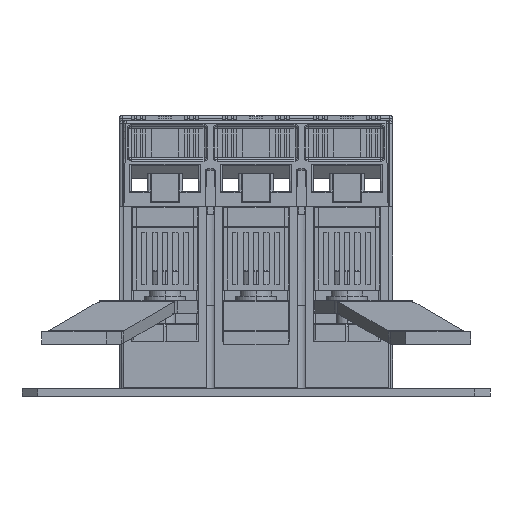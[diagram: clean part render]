
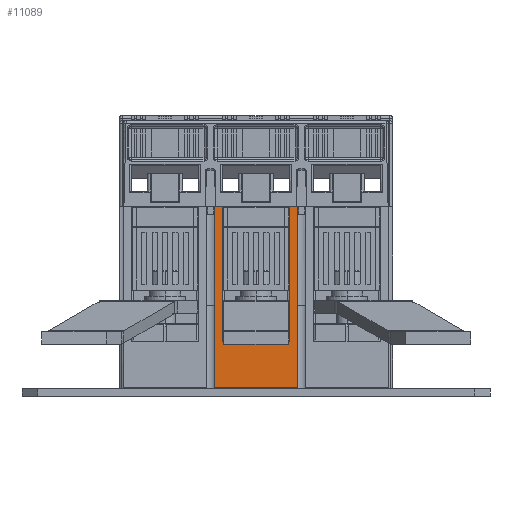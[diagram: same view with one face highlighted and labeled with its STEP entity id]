
A CAD part, front view. The second image highlights one B-rep face of the part: STEP entity #11089.
In plain terms, the highlighted planar face has unit normal (0, -1, 0).
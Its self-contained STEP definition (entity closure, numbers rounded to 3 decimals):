
#1012 = EDGE_LOOP ( 'NONE', ( #101289, #101293, #101296, #101298, #101300, #101303, #101305, #101307, #101311, #101314 ) ) ;
#8834 = CIRCLE ( 'NONE', #8842, 1. ) ;
#8842 = AXIS2_PLACEMENT_3D ( 'NONE', #195372, #195374, #195376 ) ;
#11089 = ADVANCED_FACE ( 'NONE', ( #148727 ), #148679, .F. ) ;
#15702 = VERTEX_POINT ( 'NONE', #128221 ) ;
#23107 = CARTESIAN_POINT ( 'NONE',  ( -80.13, -161.075, -51.999 ) ) ;
#29296 = VERTEX_POINT ( 'NONE', #138667 ) ;
#29313 = VERTEX_POINT ( 'NONE', #138723 ) ;
#30691 = VERTEX_POINT ( 'NONE', #23107 ) ;
#49122 = EDGE_CURVE ( 'NONE', #29313, #61950, #8834, .T. ) ;
#61950 = VERTEX_POINT ( 'NONE', #195555 ) ;
#62391 = VERTEX_POINT ( 'NONE', #195667 ) ;
#62829 = VERTEX_POINT ( 'NONE', #195803 ) ;
#63194 = VERTEX_POINT ( 'NONE', #195925 ) ;
#65420 = VERTEX_POINT ( 'NONE', #178231 ) ;
#66302 = VERTEX_POINT ( 'NONE', #178567 ) ;
#101289 = ORIENTED_EDGE ( 'NONE', *, *, #181345, .F. ) ;
#101293 = ORIENTED_EDGE ( 'NONE', *, *, #181373, .F. ) ;
#101296 = ORIENTED_EDGE ( 'NONE', *, *, #181382, .T. ) ;
#101298 = ORIENTED_EDGE ( 'NONE', *, *, #49122, .F. ) ;
#101300 = ORIENTED_EDGE ( 'NONE', *, *, #233256, .F. ) ;
#101303 = ORIENTED_EDGE ( 'NONE', *, *, #233173, .F. ) ;
#101305 = ORIENTED_EDGE ( 'NONE', *, *, #181385, .F. ) ;
#101307 = ORIENTED_EDGE ( 'NONE', *, *, #181390, .T. ) ;
#101311 = ORIENTED_EDGE ( 'NONE', *, *, #181394, .F. ) ;
#101314 = ORIENTED_EDGE ( 'NONE', *, *, #181398, .F. ) ;
#128221 = CARTESIAN_POINT ( 'NONE',  ( -48.13, -161.075, 17.501 ) ) ;
#138667 = CARTESIAN_POINT ( 'NONE',  ( -76.13, -161.075, -34.499 ) ) ;
#138723 = CARTESIAN_POINT ( 'NONE',  ( -52.13, -161.075, -34.499 ) ) ;
#148679 = PLANE ( 'NONE',  #174936 ) ;
#148727 = FACE_OUTER_BOUND ( 'NONE', #1012, .T. ) ;
#148761 = CARTESIAN_POINT ( 'NONE',  ( -51.13, -161.075, 17.501 ) ) ;
#148764 = DIRECTION ( 'NONE',  ( 0., 1., 0. ) ) ;
#148766 = DIRECTION ( 'NONE',  ( -1., 0., 0. ) ) ;
#173955 = CIRCLE ( 'NONE', #173963, 1. ) ;
#173963 = AXIS2_PLACEMENT_3D ( 'NONE', #188332, #188335, #188339 ) ;
#174098 = VECTOR ( 'NONE', #189580, 1000. ) ;
#174936 = AXIS2_PLACEMENT_3D ( 'NONE', #148761, #148764, #148766 ) ;
#178231 = CARTESIAN_POINT ( 'NONE',  ( -48.13, -161.075, -51.999 ) ) ;
#178567 = CARTESIAN_POINT ( 'NONE',  ( -51.13, -161.075, 17.501 ) ) ;
#181345 = EDGE_CURVE ( 'NONE', #15702, #65420, #206726, .T. ) ;
#181373 = EDGE_CURVE ( 'NONE', #66302, #15702, #206779, .T. ) ;
#181382 = EDGE_CURVE ( 'NONE', #66302, #61950, #206737, .T. ) ;
#181385 = EDGE_CURVE ( 'NONE', #62391, #62829, #206794, .T. ) ;
#181390 = EDGE_CURVE ( 'NONE', #62391, #63194, #206817, .T. ) ;
#181394 = EDGE_CURVE ( 'NONE', #30691, #63194, #206824, .T. ) ;
#181398 = EDGE_CURVE ( 'NONE', #65420, #30691, #206832, .T. ) ;
#188332 = CARTESIAN_POINT ( 'NONE',  ( -76.13, -161.075, -33.499 ) ) ;
#188335 = DIRECTION ( 'NONE',  ( 0., -1., 0. ) ) ;
#188339 = DIRECTION ( 'NONE',  ( -1., 0., 0. ) ) ;
#189539 = LINE ( 'NONE', #189543, #174098 ) ;
#189543 = CARTESIAN_POINT ( 'NONE',  ( -51.13, -161.075, -34.499 ) ) ;
#189580 = DIRECTION ( 'NONE',  ( 1., 0., 0. ) ) ;
#195372 = CARTESIAN_POINT ( 'NONE',  ( -52.13, -161.075, -33.499 ) ) ;
#195374 = DIRECTION ( 'NONE',  ( 0., -1., 0. ) ) ;
#195376 = DIRECTION ( 'NONE',  ( -1., 0., 0. ) ) ;
#195555 = CARTESIAN_POINT ( 'NONE',  ( -51.13, -161.075, -33.499 ) ) ;
#195667 = CARTESIAN_POINT ( 'NONE',  ( -77.13, -161.075, 17.501 ) ) ;
#195803 = CARTESIAN_POINT ( 'NONE',  ( -77.13, -161.075, -33.499 ) ) ;
#195925 = CARTESIAN_POINT ( 'NONE',  ( -80.13, -161.075, 17.501 ) ) ;
#203610 = VECTOR ( 'NONE', #206731, 1000. ) ;
#203612 = VECTOR ( 'NONE', #206814, 1000. ) ;
#203622 = VECTOR ( 'NONE', #206786, 1000. ) ;
#203625 = VECTOR ( 'NONE', #206807, 1000. ) ;
#203629 = VECTOR ( 'NONE', #206822, 1000. ) ;
#203631 = VECTOR ( 'NONE', #206830, 1000. ) ;
#203633 = VECTOR ( 'NONE', #206838, 1000. ) ;
#206726 = LINE ( 'NONE', #206729, #203610 ) ;
#206729 = CARTESIAN_POINT ( 'NONE',  ( -48.13, -161.075, 17.501 ) ) ;
#206731 = DIRECTION ( 'NONE',  ( 0., 0., -1. ) ) ;
#206734 = CARTESIAN_POINT ( 'NONE',  ( -51.13, -161.075, 17.501 ) ) ;
#206737 = LINE ( 'NONE', #206734, #203625 ) ;
#206779 = LINE ( 'NONE', #206784, #203622 ) ;
#206784 = CARTESIAN_POINT ( 'NONE',  ( -51.13, -161.075, 17.501 ) ) ;
#206786 = DIRECTION ( 'NONE',  ( 1., 0., 0. ) ) ;
#206794 = LINE ( 'NONE', #206809, #203612 ) ;
#206807 = DIRECTION ( 'NONE',  ( 0., 0., -1. ) ) ;
#206809 = CARTESIAN_POINT ( 'NONE',  ( -77.13, -161.075, 17.501 ) ) ;
#206814 = DIRECTION ( 'NONE',  ( 0., 0., -1. ) ) ;
#206817 = LINE ( 'NONE', #206820, #203629 ) ;
#206820 = CARTESIAN_POINT ( 'NONE',  ( -116.63, -161.075, 17.501 ) ) ;
#206822 = DIRECTION ( 'NONE',  ( -1., 0., 0. ) ) ;
#206824 = LINE ( 'NONE', #206827, #203631 ) ;
#206827 = CARTESIAN_POINT ( 'NONE',  ( -80.13, -161.075, 17.501 ) ) ;
#206830 = DIRECTION ( 'NONE',  ( 0., 0., 1. ) ) ;
#206832 = LINE ( 'NONE', #206836, #203633 ) ;
#206836 = CARTESIAN_POINT ( 'NONE',  ( -51.13, -161.075, -51.999 ) ) ;
#206838 = DIRECTION ( 'NONE',  ( -1., 0., 0. ) ) ;
#233173 = EDGE_CURVE ( 'NONE', #62829, #29296, #173955, .T. ) ;
#233256 = EDGE_CURVE ( 'NONE', #29296, #29313, #189539, .T. ) ;
